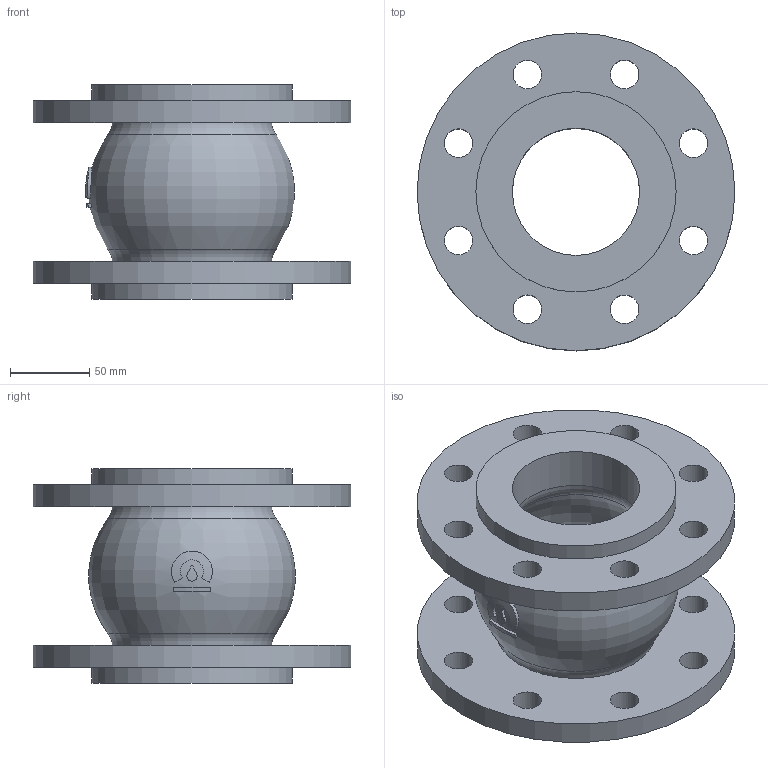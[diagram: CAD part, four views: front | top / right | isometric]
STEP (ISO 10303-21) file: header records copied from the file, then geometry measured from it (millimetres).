
FILE_DESCRIPTION(('STEP AP203'), '1');
FILE_NAME('Êîìïåíñàòîð KMS DN80 PN10_16', '', ('UNSPECIFIED'), ('UNSPECIFIED'), 'ASCON STEP Converter 1.6', 'ASCON Math Kernel', '');
FILE_SCHEMA(('CONFIG_CONTROL_DESIGN'));
Length unit declared in the file: millimetre
Bounding box: 200 x 200 x 135 mm (x, y, z)
Volume: 1150691.1 mm3; surface area: 205799.7 mm2
Topology: 1 solids, 1 shells, 51 faces, 120 edges, 78 vertices
Faces by surface type: cylinder 29, plane 13, torus 9
Full cylindrical faces by diameter (mm): 18 x16, 80 x2, 126 x2, 200 x2
Entity records: 2540 total; most frequent: CARTESIAN_POINT 953, DIRECTION 230, ORIENTED_EDGE 184, EDGE_LOOP 120, AXIS2_PLACEMENT_3D 108, EDGE_CURVE 92, VERTEX_POINT 78, FACE_BOUND 64
